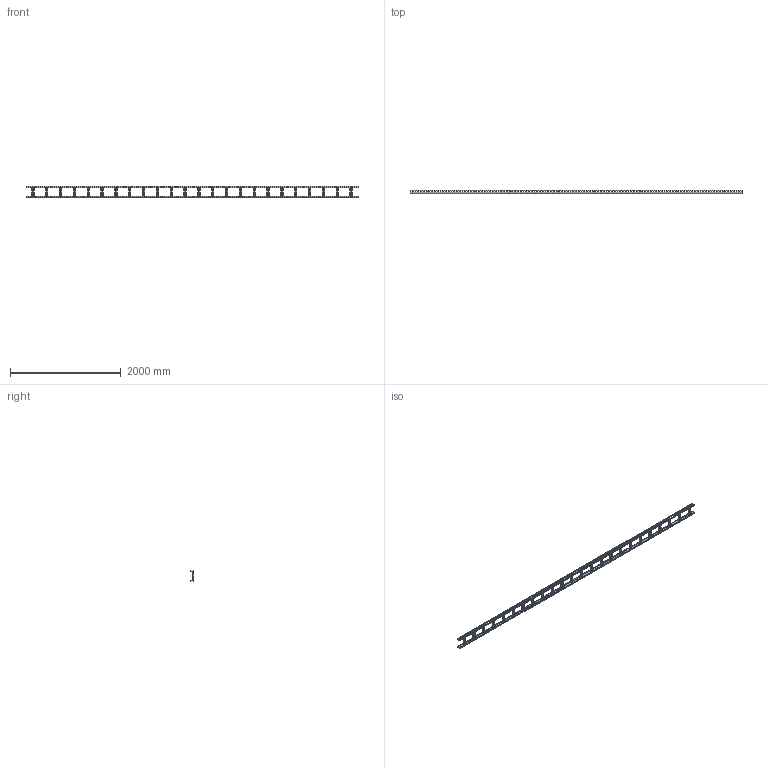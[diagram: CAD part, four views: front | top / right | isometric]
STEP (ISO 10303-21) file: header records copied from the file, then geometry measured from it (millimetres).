
FILE_DESCRIPTION(/* description */ (''),/* implementation_level */ '2;1');
FILE_NAME(/* name */ 'D:\Inventor projects\Biblioteka 3D\STP\WP 60-15.stp',/* time_stamp */ '2021-06-18T10:18:47+02:00',/* author */ ('psynowiec'),/* organization */ (''),/* preprocessor_version */ 'ST-DEVELOPER v16.13',/* originating_system */ 'Autodesk Inventor 2018',/* authorisation */ '');
FILE_SCHEMA (('AUTOMOTIVE_DESIGN { 1 0 10303 214 3 1 1 }'));
Products named in the file (1): WP 60-15
Bounding box: 6000 x 60 x 200.03 mm (x, y, z)
Volume: 2584778.4 mm3; surface area: 3543654.4 mm2
Topology: 26 solids, 26 shells, 3574 faces, 10070 edges, 6308 vertices
Faces by surface type: plane 2700, cylinder 874
Full cylindrical faces by diameter (mm): 7 x42
Entity records: 117990 total; most frequent: CARTESIAN_POINT 24279, ORIENTED_EDGE 20056, DIRECTION 18734, EDGE_CURVE 10028, LINE 7128, VECTOR 7128, VERTEX_POINT 6308, AXIS2_PLACEMENT_3D 5803
